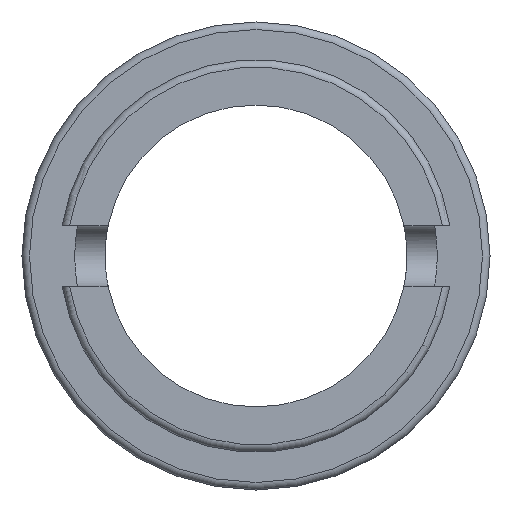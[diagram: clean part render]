
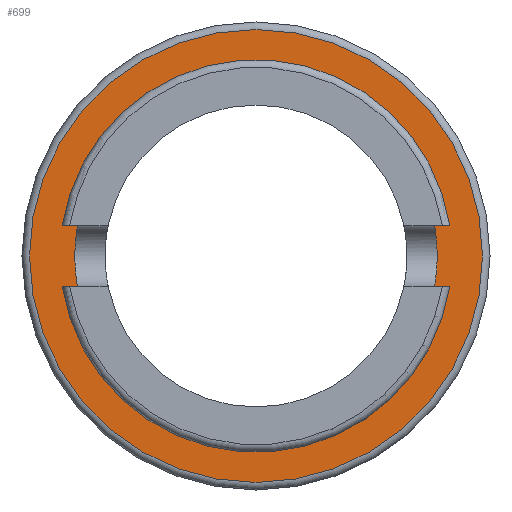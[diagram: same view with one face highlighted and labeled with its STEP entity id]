
A CAD part, left-side view. The second image highlights one B-rep face of the part: STEP entity #699.
In plain terms, the highlighted planar face has unit normal (-1, 0, 0).
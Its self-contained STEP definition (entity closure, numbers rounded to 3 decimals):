
#94=CIRCLE('',#780,2.4);
#95=CIRCLE('',#782,3.);
#182=ORIENTED_EDGE('',*,*,#377,.T.);
#183=ORIENTED_EDGE('',*,*,#370,.F.);
#370=EDGE_CURVE('',#466,#466,#94,.T.);
#377=EDGE_CURVE('',#471,#471,#95,.F.);
#466=VERTEX_POINT('',#1172);
#471=VERTEX_POINT('',#1193);
#590=EDGE_LOOP('',(#182));
#591=EDGE_LOOP('',(#183));
#638=FACE_BOUND('',#590,.T.);
#639=FACE_BOUND('',#591,.T.);
#673=PLANE('',#781);
#699=ADVANCED_FACE('',(#638,#639),#673,.F.);
#780=AXIS2_PLACEMENT_3D('',#1171,#933,#934);
#781=AXIS2_PLACEMENT_3D('',#1191,#939,#940);
#782=AXIS2_PLACEMENT_3D('',#1192,#941,#942);
#933=DIRECTION('',(-1.,0.,0.));
#934=DIRECTION('',(0.,0.,1.));
#939=DIRECTION('',(1.,0.,0.));
#940=DIRECTION('',(0.,0.,1.));
#941=DIRECTION('',(1.,0.,0.));
#942=DIRECTION('',(0.,0.,-1.));
#1171=CARTESIAN_POINT('',(-0.8,0.,0.));
#1172=CARTESIAN_POINT('',(-0.8,0.,2.4));
#1191=CARTESIAN_POINT('',(-0.8,0.,2.4));
#1192=CARTESIAN_POINT('',(-0.8,0.,0.));
#1193=CARTESIAN_POINT('',(-0.8,0.,-3.));
